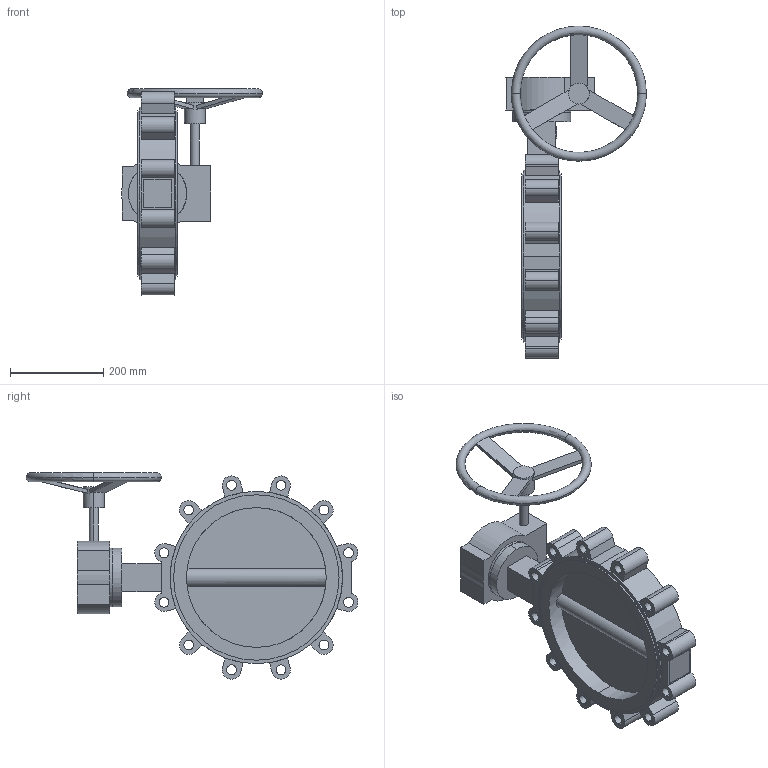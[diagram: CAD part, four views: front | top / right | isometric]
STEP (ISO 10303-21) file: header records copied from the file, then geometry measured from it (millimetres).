
FILE_DESCRIPTION (( 'STEP AP214' ), '1' );
FILE_NAME ('E124_300.STEP', '2021-05-28T12:37:56', ( '' ), ( '' ), 'SwSTEP 2.0', 'SolidWorks 2020', '' );
FILE_SCHEMA (( 'AUTOMOTIVE_DESIGN' ));
Length unit declared in the file: millimetre
Products named in the file (1): E124_300
Bounding box: 302.33 x 711.99 x 442.44 mm (x, y, z)
Volume: 7941976.3 mm3; surface area: 739134.7 mm2
Topology: 1 solids, 1 shells, 169 faces, 446 edges, 296 vertices
Faces by surface type: plane 99, cylinder 66, torus 4
Entity records: 7428 total; most frequent: CARTESIAN_POINT 1278, DIRECTION 917, ORIENTED_EDGE 892, EDGE_CURVE 446, AXIS2_PLACEMENT_3D 333, VERTEX_POINT 296, LINE 251, VECTOR 251
